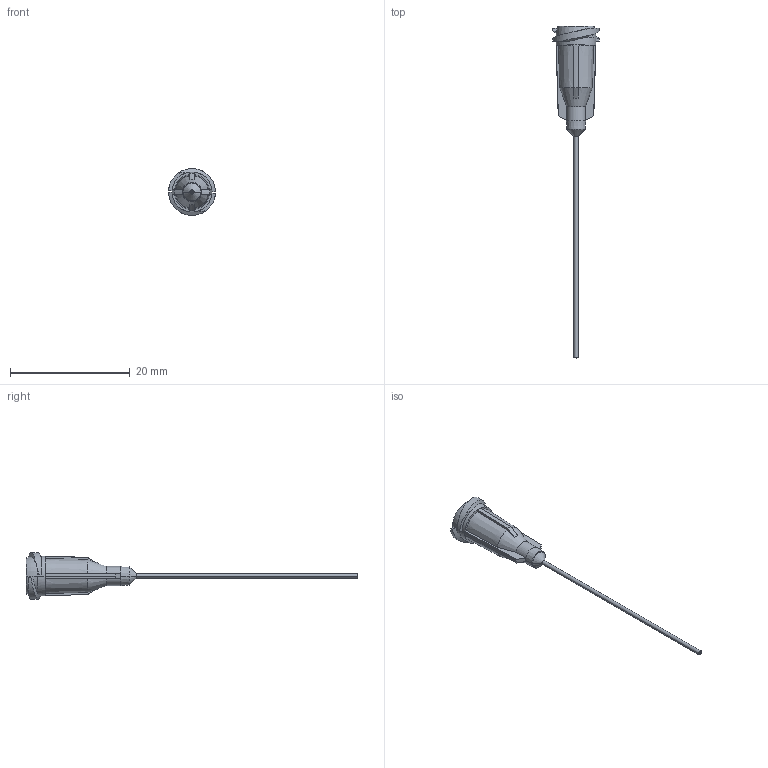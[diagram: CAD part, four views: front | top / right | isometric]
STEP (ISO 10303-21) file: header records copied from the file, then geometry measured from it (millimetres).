
FILE_DESCRIPTION (( 'STEP AP214' ), '1' );
FILE_NAME ('NORDSONEFD-7018265 TIP 22GA GP 016 X 15 BL.STEP', '2019-02-04T12:14:31', ( '' ), ( '' ), 'SwSTEP 2.0', 'SolidWorks 2019', '' );
FILE_SCHEMA (( 'AUTOMOTIVE_DESIGN' ));
Length unit declared in the file: inch
Products named in the file (1): NORDSONEFD-7018265 TIP 22GA GP 016 X 15 BL
Bounding box: 7.82 x 55.47 x 7.82 mm (x, y, z)
Volume: 274.3 mm3; surface area: 675.6 mm2
Topology: 1 solids, 1 shells, 98 faces, 228 edges, 136 vertices
Faces by surface type: plane 26, torus 22, cone 22, cylinder 16, bspline 12
Entity records: 3320 total; most frequent: CARTESIAN_POINT 997, DIRECTION 460, ORIENTED_EDGE 456, EDGE_CURVE 228, AXIS2_PLACEMENT_3D 201, VERTEX_POINT 136, CIRCLE 114, EDGE_LOOP 104
